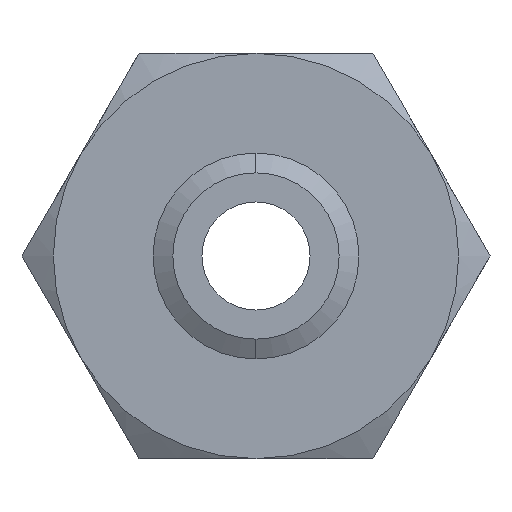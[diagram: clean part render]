
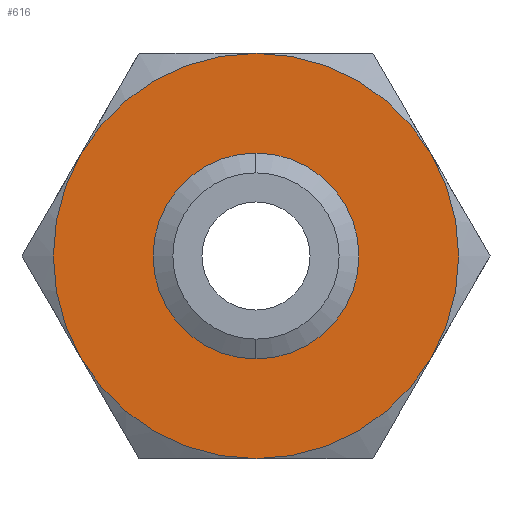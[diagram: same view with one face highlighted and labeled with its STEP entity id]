
A CAD part, front view. The second image highlights one B-rep face of the part: STEP entity #616.
In plain terms, the highlighted planar face has unit normal (0, -1, 0).
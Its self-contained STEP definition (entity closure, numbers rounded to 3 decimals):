
#338 = VERTEX_POINT ( 'NONE', #1241 ) ;
#340 = VERTEX_POINT ( 'NONE', #1236 ) ;
#344 = EDGE_CURVE ( 'NONE', #338, #340, #1234, .T. ) ;
#510 = EDGE_CURVE ( 'NONE', #529, #523, #1546, .T. ) ;
#511 = ORIENTED_EDGE ( 'NONE', *, *, #344, .F. ) ;
#512 = EDGE_LOOP ( 'NONE', ( #511, #513 ) ) ;
#513 = ORIENTED_EDGE ( 'NONE', *, *, #514, .F. ) ;
#514 = EDGE_CURVE ( 'NONE', #340, #338, #1541, .T. ) ;
#515 = EDGE_CURVE ( 'NONE', #527, #516, #1602, .T. ) ;
#516 = VERTEX_POINT ( 'NONE', #1597 ) ;
#517 = ORIENTED_EDGE ( 'NONE', *, *, #518, .F. ) ;
#518 = EDGE_CURVE ( 'NONE', #516, #528, #1595, .T. ) ;
#519 = EDGE_CURVE ( 'NONE', #528, #530, #1590, .T. ) ;
#520 = ORIENTED_EDGE ( 'NONE', *, *, #521, .F. ) ;
#521 = EDGE_CURVE ( 'NONE', #523, #527, #1585, .T. ) ;
#522 = ORIENTED_EDGE ( 'NONE', *, *, #519, .F. ) ;
#523 = VERTEX_POINT ( 'NONE', #1580 ) ;
#524 = ORIENTED_EDGE ( 'NONE', *, *, #510, .F. ) ;
#526 = ORIENTED_EDGE ( 'NONE', *, *, #515, .F. ) ;
#527 = VERTEX_POINT ( 'NONE', #1578 ) ;
#528 = VERTEX_POINT ( 'NONE', #1577 ) ;
#529 = VERTEX_POINT ( 'NONE', #1576 ) ;
#530 = VERTEX_POINT ( 'NONE', #1575 ) ;
#609 = EDGE_CURVE ( 'NONE', #530, #529, #1802, .T. ) ;
#611 = EDGE_LOOP ( 'NONE', ( #613, #522, #517, #526, #520, #524 ) ) ;
#613 = ORIENTED_EDGE ( 'NONE', *, *, #609, .F. ) ;
#616 = ADVANCED_FACE ( 'NONE', ( #1780, #1779 ), #1778, .F. ) ;
#1230 = DIRECTION ( 'NONE',  ( 0., 0., -1. ) ) ;
#1231 = DIRECTION ( 'NONE',  ( 0., -1., 0. ) ) ;
#1232 = CARTESIAN_POINT ( 'NONE',  ( 0., 0., 0. ) ) ;
#1233 = AXIS2_PLACEMENT_3D ( 'NONE', #1232, #1231, #1230 ) ;
#1234 = CIRCLE ( 'NONE', #1233, 15.387 ) ;
#1236 = CARTESIAN_POINT ( 'NONE',  ( 0., 0., 15.387 ) ) ;
#1241 = CARTESIAN_POINT ( 'NONE',  ( 0., 0., -15.387 ) ) ;
#1537 = DIRECTION ( 'NONE',  ( 0., 0., -1. ) ) ;
#1538 = DIRECTION ( 'NONE',  ( 0., -1., 0. ) ) ;
#1539 = CARTESIAN_POINT ( 'NONE',  ( 0., 0., 0. ) ) ;
#1540 = AXIS2_PLACEMENT_3D ( 'NONE', #1539, #1538, #1537 ) ;
#1541 = CIRCLE ( 'NONE', #1540, 15.387 ) ;
#1542 = DIRECTION ( 'NONE',  ( 0., 0., 1. ) ) ;
#1543 = DIRECTION ( 'NONE',  ( 0., 1., 0. ) ) ;
#1544 = CARTESIAN_POINT ( 'NONE',  ( 0., 0., 0. ) ) ;
#1545 = AXIS2_PLACEMENT_3D ( 'NONE', #1544, #1543, #1542 ) ;
#1546 = CIRCLE ( 'NONE', #1545, 37.5 ) ;
#1575 = CARTESIAN_POINT ( 'NONE',  ( 0., 0., 37.5 ) ) ;
#1576 = CARTESIAN_POINT ( 'NONE',  ( 32.476, 0., 18.75 ) ) ;
#1577 = CARTESIAN_POINT ( 'NONE',  ( -32.476, 0., 18.75 ) ) ;
#1578 = CARTESIAN_POINT ( 'NONE',  ( 0., 0., -37.5 ) ) ;
#1580 = CARTESIAN_POINT ( 'NONE',  ( 32.476, 0., -18.75 ) ) ;
#1581 = DIRECTION ( 'NONE',  ( 0., 0., 1. ) ) ;
#1582 = DIRECTION ( 'NONE',  ( 0., 1., 0. ) ) ;
#1583 = CARTESIAN_POINT ( 'NONE',  ( 0., 0., 0. ) ) ;
#1584 = AXIS2_PLACEMENT_3D ( 'NONE', #1583, #1582, #1581 ) ;
#1585 = CIRCLE ( 'NONE', #1584, 37.5 ) ;
#1586 = DIRECTION ( 'NONE',  ( 0., 0., 1. ) ) ;
#1587 = DIRECTION ( 'NONE',  ( 0., 1., 0. ) ) ;
#1588 = CARTESIAN_POINT ( 'NONE',  ( 0., 0., 0. ) ) ;
#1589 = AXIS2_PLACEMENT_3D ( 'NONE', #1588, #1587, #1586 ) ;
#1590 = CIRCLE ( 'NONE', #1589, 37.5 ) ;
#1591 = DIRECTION ( 'NONE',  ( 0., 0., 1. ) ) ;
#1592 = DIRECTION ( 'NONE',  ( 0., 1., 0. ) ) ;
#1593 = CARTESIAN_POINT ( 'NONE',  ( 0., 0., 0. ) ) ;
#1594 = AXIS2_PLACEMENT_3D ( 'NONE', #1593, #1592, #1591 ) ;
#1595 = CIRCLE ( 'NONE', #1594, 37.5 ) ;
#1597 = CARTESIAN_POINT ( 'NONE',  ( -32.476, 0., -18.75 ) ) ;
#1598 = DIRECTION ( 'NONE',  ( 0., 0., 1. ) ) ;
#1599 = DIRECTION ( 'NONE',  ( 0., 1., 0. ) ) ;
#1600 = CARTESIAN_POINT ( 'NONE',  ( 0., 0., 0. ) ) ;
#1601 = AXIS2_PLACEMENT_3D ( 'NONE', #1600, #1599, #1598 ) ;
#1602 = CIRCLE ( 'NONE', #1601, 37.5 ) ;
#1778 = PLANE ( 'NONE',  #1829 ) ;
#1779 = FACE_BOUND ( 'NONE', #512, .T. ) ;
#1780 = FACE_OUTER_BOUND ( 'NONE', #611, .T. ) ;
#1790 = DIRECTION ( 'NONE',  ( 0., 0., 1. ) ) ;
#1791 = DIRECTION ( 'NONE',  ( 0., 1., 0. ) ) ;
#1792 = CARTESIAN_POINT ( 'NONE',  ( 0., 0., 0. ) ) ;
#1793 = AXIS2_PLACEMENT_3D ( 'NONE', #1792, #1791, #1790 ) ;
#1802 = CIRCLE ( 'NONE', #1793, 37.5 ) ;
#1826 = DIRECTION ( 'NONE',  ( 0., 0., 1. ) ) ;
#1827 = DIRECTION ( 'NONE',  ( 0., 1., 0. ) ) ;
#1828 = CARTESIAN_POINT ( 'NONE',  ( 21.651, 0., -37.5 ) ) ;
#1829 = AXIS2_PLACEMENT_3D ( 'NONE', #1828, #1827, #1826 ) ;
